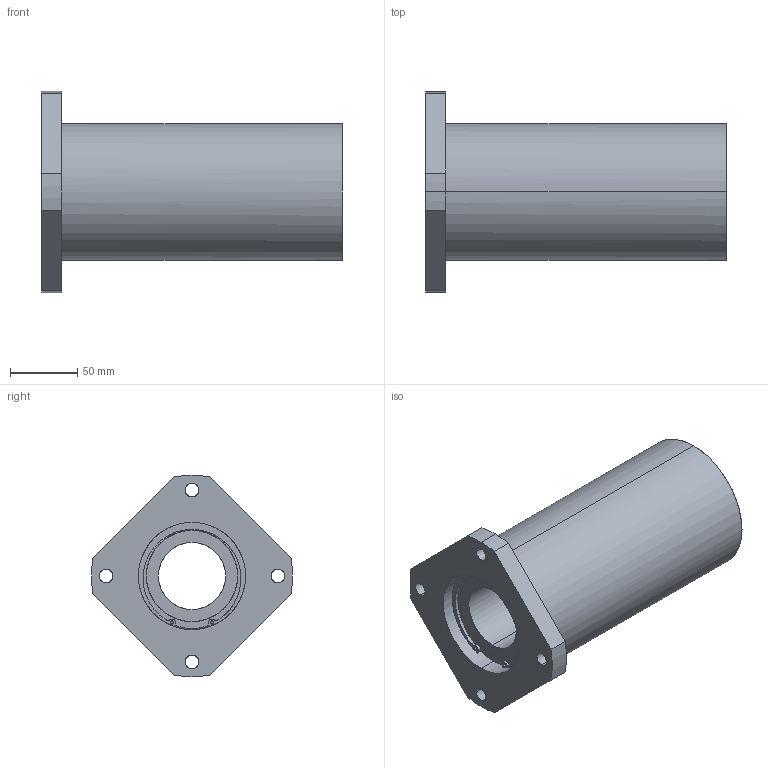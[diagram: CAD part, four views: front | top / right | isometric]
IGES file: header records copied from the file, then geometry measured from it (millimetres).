
Global section: file name: No Iges File Name specified; native system: AutoDesk Inventor R10; preprocessor: AutoDesk Inventor Iges Exporter R10; author: No Author specified; organization: No Organization specified; date: 20101214.140008; units: millimetre
Bounding box: 224 x 149.7 x 150 mm (x, y, z)
Surface area: 154665.8 mm2 (no closed solid volume)
Topology: 0 solids, 0 shells, 109 faces, 784 edges, 784 vertices
Faces by surface type: bspline 109
